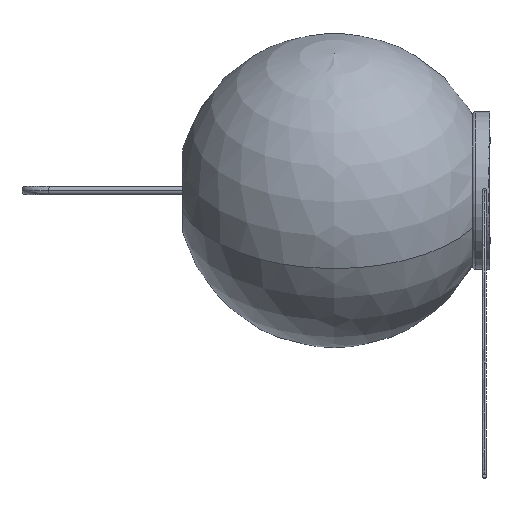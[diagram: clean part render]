
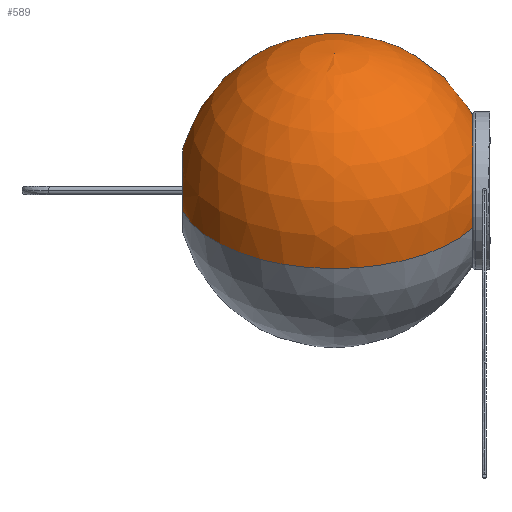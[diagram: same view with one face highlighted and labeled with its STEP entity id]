
A CAD part, left-side view. The second image highlights one B-rep face of the part: STEP entity #589.
In plain terms, the highlighted spherical face has radius 180 mm.
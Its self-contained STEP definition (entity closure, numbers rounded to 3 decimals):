
#359 = DIRECTION ( 'NONE',  ( 1., 0., 0. ) ) ;
#432 = FACE_OUTER_BOUND ( 'NONE', #7658, .T. ) ;
#529 = VERTEX_POINT ( 'NONE', #9345 ) ;
#561 = EDGE_CURVE ( 'NONE', #14420, #8749, #10676, .T. ) ;
#589 = ADVANCED_FACE ( 'NONE', ( #432 ), #3934, .T. ) ;
#683 = CIRCLE ( 'NONE', #12807, 180. ) ;
#2501 = ORIENTED_EDGE ( 'NONE', *, *, #7507, .T. ) ;
#2940 = CARTESIAN_POINT ( 'NONE',  ( 0., 157.889, 0. ) ) ;
#3779 = DIRECTION ( 'NONE',  ( 1., 0., 0. ) ) ;
#3931 = DIRECTION ( 'NONE',  ( 0., 1., 0. ) ) ;
#3932 = ORIENTED_EDGE ( 'NONE', *, *, #561, .F. ) ;
#3934 = SPHERICAL_SURFACE ( 'NONE', #11423, 180. ) ;
#4270 = EDGE_CURVE ( 'NONE', #14108, #8749, #12584, .T. ) ;
#5154 = AXIS2_PLACEMENT_3D ( 'NONE', #2940, #7750, #11318 ) ;
#5695 = DIRECTION ( 'NONE',  ( 0., 0., 1. ) ) ;
#5892 = CIRCLE ( 'NONE', #5154, 86.435 ) ;
#6133 = CARTESIAN_POINT ( 'NONE',  ( -86.435, 157.889, 0. ) ) ;
#6239 = CARTESIAN_POINT ( 'NONE',  ( 0., 0., 0. ) ) ;
#6730 = EDGE_CURVE ( 'NONE', #529, #14420, #683, .T. ) ;
#7258 = CARTESIAN_POINT ( 'NONE',  ( 0., -173.482, 0. ) ) ;
#7507 = EDGE_CURVE ( 'NONE', #529, #14108, #5892, .T. ) ;
#7628 = DIRECTION ( 'NONE',  ( 0., 0., -1. ) ) ;
#7658 = EDGE_LOOP ( 'NONE', ( #2501, #14947, #3932, #15018 ) ) ;
#7750 = DIRECTION ( 'NONE',  ( 0., -1., 0. ) ) ;
#8724 = DIRECTION ( 'NONE',  ( 0., 0., 1. ) ) ;
#8749 = VERTEX_POINT ( 'NONE', #10315 ) ;
#8941 = AXIS2_PLACEMENT_3D ( 'NONE', #7258, #13148, #3779 ) ;
#9345 = CARTESIAN_POINT ( 'NONE',  ( 86.435, 157.889, 0. ) ) ;
#10095 = CARTESIAN_POINT ( 'NONE',  ( 0., 0., 0. ) ) ;
#10315 = CARTESIAN_POINT ( 'NONE',  ( -48., -173.482, 0. ) ) ;
#10676 = CIRCLE ( 'NONE', #8941, 48. ) ;
#10697 = CARTESIAN_POINT ( 'NONE',  ( 48., -173.482, 0. ) ) ;
#11318 = DIRECTION ( 'NONE',  ( 1., 0., 0. ) ) ;
#11423 = AXIS2_PLACEMENT_3D ( 'NONE', #6239, #8724, #359 ) ;
#12332 = AXIS2_PLACEMENT_3D ( 'NONE', #13932, #5695, #14929 ) ;
#12584 = CIRCLE ( 'NONE', #12332, 180. ) ;
#12807 = AXIS2_PLACEMENT_3D ( 'NONE', #10095, #7628, #3931 ) ;
#13148 = DIRECTION ( 'NONE',  ( 0., -1., 0. ) ) ;
#13932 = CARTESIAN_POINT ( 'NONE',  ( 0., 0., 0. ) ) ;
#14108 = VERTEX_POINT ( 'NONE', #6133 ) ;
#14420 = VERTEX_POINT ( 'NONE', #10697 ) ;
#14929 = DIRECTION ( 'NONE',  ( 1., 0., 0. ) ) ;
#14947 = ORIENTED_EDGE ( 'NONE', *, *, #4270, .T. ) ;
#15018 = ORIENTED_EDGE ( 'NONE', *, *, #6730, .F. ) ;
